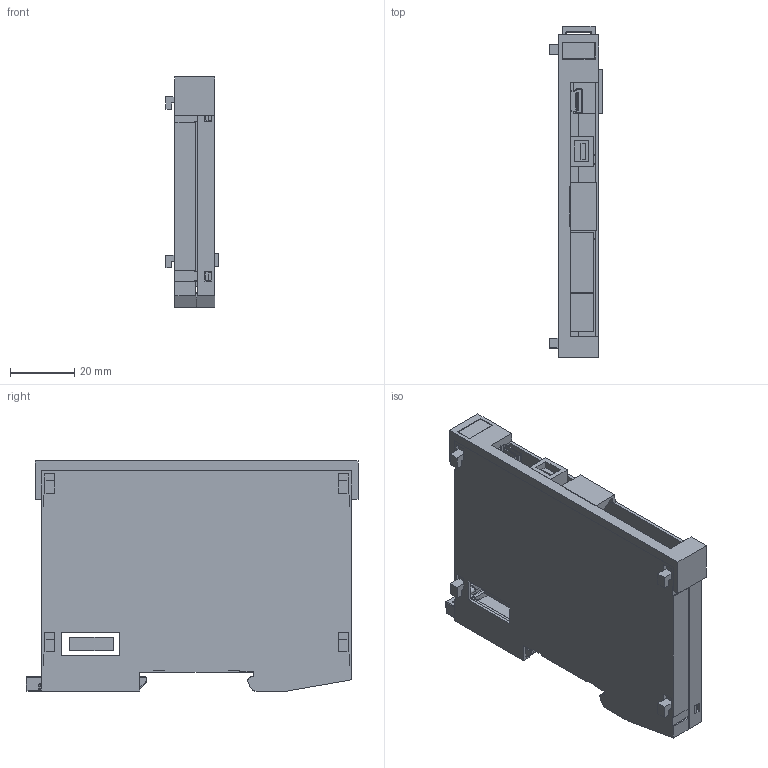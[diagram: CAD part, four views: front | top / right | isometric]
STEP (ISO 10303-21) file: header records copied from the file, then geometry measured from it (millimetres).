
FILE_DESCRIPTION (( 'STEP AP214' ), '1' );
FILE_NAME ('CP102.STEP', '2015-07-23T07:16:02', ( 'SIGMATEK GmbH & Co KG' ), ( 'SIGMATEK GmbH & Co KG' ), 'SwSTEP 2.0', 'SolidWorks 2013', '' );
FILE_SCHEMA (( 'AUTOMOTIVE_DESIGN' ));
Length unit declared in the file: millimetre
Products named in the file (13): LP_CP102; Dummy_4080225387; Dummy_4110251245 5pol.Mini-Combicon-Grundgeh. RM3,5 1844249; Dummy_4080225241 MINI USB; Dummy_4110251244 3pol.Mini-Combic.Steckergrundg. RM 3,5 1844223; Steckerabdeckung_Var 9; S-Dias Rasthaken 20130313; Schieber_f Suport; S-Dias Schale rechts_f Suport; S-Dias Schale links_f Suport; 4110251342_MF 10-5 MC CABUR_1854510000; CP102; Dummy_4080225345 Erni Buchse
Assembly tree (12 placements, depth 3):
  CP102
    4110251342_MF 10-5 MC CABUR_1854510000
    S-Dias Schale links_f Suport
    S-Dias Schale rechts_f Suport
    Schieber_f Suport
    S-Dias Rasthaken 20130313
    LP_CP102
      Steckerabdeckung_Var 9
      Dummy_4110251244 3pol.Mini-Combic.Steckergrundg. RM 3,5 1844223
      Dummy_4080225241 MINI USB
      Dummy_4110251245 5pol.Mini-Combicon-Grundgeh. RM3,5 1844249
      Dummy_4080225387
    Dummy_4080225345 Erni Buchse
Bounding box: 16.3 x 103.61 x 71.79 mm (x, y, z)
Volume: 23730.2 mm3; surface area: 41756.9 mm2
Topology: 11 solids, 11 shells, 886 faces, 2563 edges, 1688 vertices
Faces by surface type: plane 604, cylinder 163, bspline 55, cone 28, torus 19, sphere 17
Entity records: 33891 total; most frequent: CARTESIAN_POINT 7852, ORIENTED_EDGE 5076, DIRECTION 4079, EDGE_CURVE 2538, VECTOR 1811, LINE 1811, VERTEX_POINT 1680, AXIS2_PLACEMENT_3D 1134
